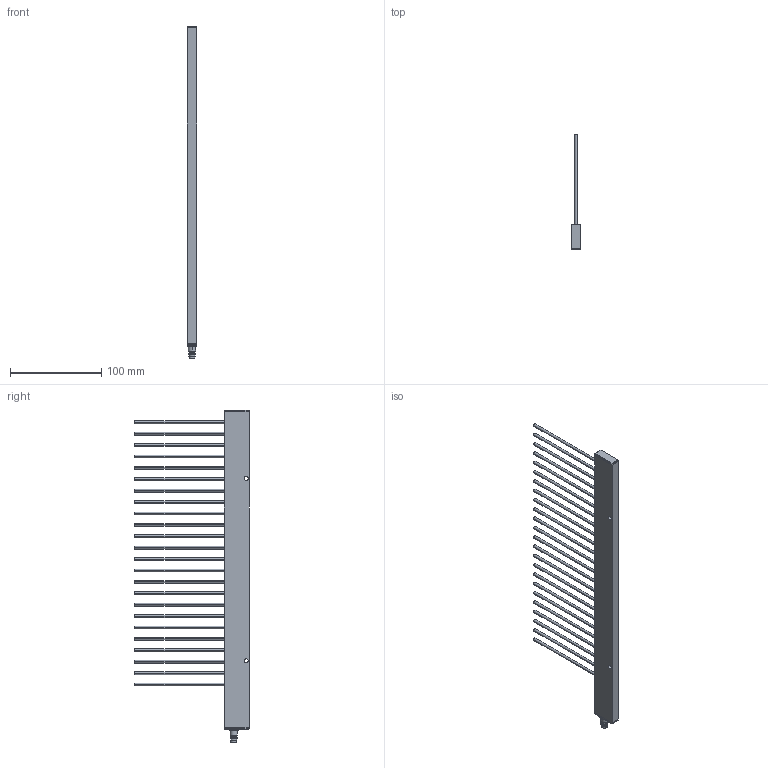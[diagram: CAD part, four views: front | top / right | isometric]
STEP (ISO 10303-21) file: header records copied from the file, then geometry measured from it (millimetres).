
FILE_DESCRIPTION (( 'STEP AP203' ), '1' );
FILE_NAME ('CSL505-RxTx12.5-288-M8.STEP', '2016-02-11T11:20:47', ( '' ), ( '' ), 'SwSTEP 2.0', 'SolidWorks 2015', '' );
FILE_SCHEMA (( 'CONFIG_CONTROL_DESIGN' ));
Length unit declared in the file: millimetre
Products named in the file (2): CSL505-RxTx12.5-288-M8
Bounding box: 10 x 125.2 x 364 mm (x, y, z)
Volume: 109859.8 mm3; surface area: 49931 mm2
Topology: 1 solids, 1 shells, 218 faces, 532 edges, 342 vertices
Faces by surface type: plane 118, cylinder 88, cone 12
Entity records: 6561 total; most frequent: DIRECTION 1158, CARTESIAN_POINT 1094, ORIENTED_EDGE 1064, EDGE_CURVE 532, AXIS2_PLACEMENT_3D 406, VECTOR 346, LINE 346, VERTEX_POINT 342
